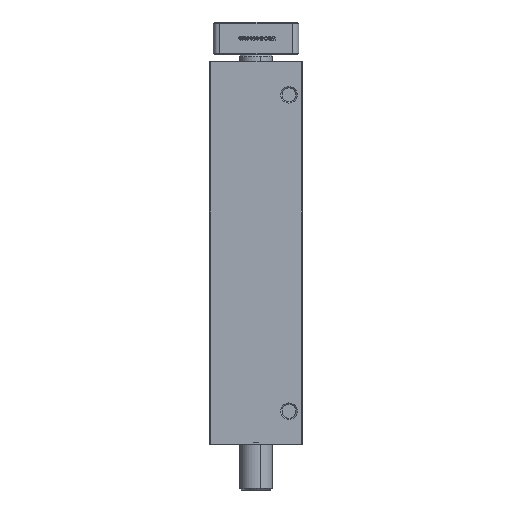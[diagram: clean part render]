
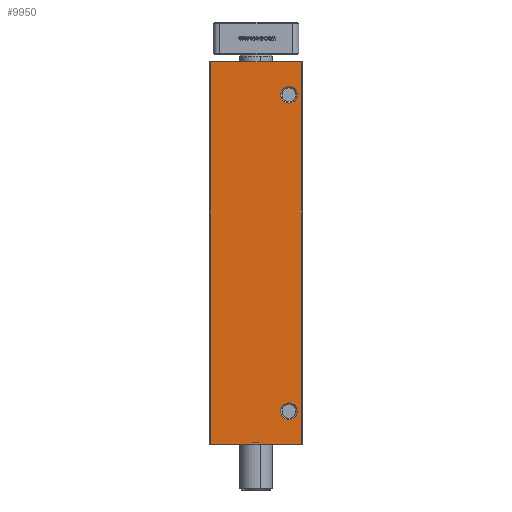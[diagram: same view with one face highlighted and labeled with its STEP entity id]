
A CAD part, left-side view. The second image highlights one B-rep face of the part: STEP entity #9950.
In plain terms, the highlighted planar face has unit normal (-1, 0, 0).
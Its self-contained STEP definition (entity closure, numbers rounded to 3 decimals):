
#170 = LINE ( 'NONE', #2516, #15098 ) ;
#420 = AXIS2_PLACEMENT_3D ( 'NONE', #15072, #23434, #2992 ) ;
#624 = CARTESIAN_POINT ( 'NONE',  ( -30., 0.75, -115.4 ) ) ;
#1021 = DIRECTION ( 'NONE',  ( 0., 0., -1. ) ) ;
#1321 = EDGE_LOOP ( 'NONE', ( #5812, #24893 ) ) ;
#1428 = AXIS2_PLACEMENT_3D ( 'NONE', #6426, #6511, #21087 ) ;
#1881 = AXIS2_PLACEMENT_3D ( 'NONE', #3163, #5134, #1021 ) ;
#2326 = CARTESIAN_POINT ( 'NONE',  ( -30., 0.75, -115.4 ) ) ;
#2516 = CARTESIAN_POINT ( 'NONE',  ( -30., -0.75, -115.4 ) ) ;
#2565 = CARTESIAN_POINT ( 'NONE',  ( -30., -13.7, 0. ) ) ;
#2913 = CIRCLE ( 'NONE', #1428, 2.5 ) ;
#2952 = ORIENTED_EDGE ( 'NONE', *, *, #14971, .F. ) ;
#2992 = DIRECTION ( 'NONE',  ( 0., 0., -1. ) ) ;
#3152 = EDGE_CURVE ( 'NONE', #5461, #4176, #13777, .T. ) ;
#3163 = CARTESIAN_POINT ( 'NONE',  ( -30., -10., -106. ) ) ;
#3412 = VECTOR ( 'NONE', #17081, 1000. ) ;
#3455 = VERTEX_POINT ( 'NONE', #15487 ) ;
#3556 = EDGE_LOOP ( 'NONE', ( #17977, #2952 ) ) ;
#3571 = CARTESIAN_POINT ( 'NONE',  ( -30., 0.75, -116. ) ) ;
#3712 = VERTEX_POINT ( 'NONE', #17662 ) ;
#4153 = DIRECTION ( 'NONE',  ( 0., 1., 0. ) ) ;
#4176 = VERTEX_POINT ( 'NONE', #7006 ) ;
#4365 = EDGE_CURVE ( 'NONE', #25226, #10682, #7880, .T. ) ;
#4544 = FACE_BOUND ( 'NONE', #1321, .T. ) ;
#5134 = DIRECTION ( 'NONE',  ( -1., 0., 0. ) ) ;
#5187 = FACE_BOUND ( 'NONE', #3556, .T. ) ;
#5262 = LINE ( 'NONE', #25084, #13081 ) ;
#5387 = DIRECTION ( 'NONE',  ( 0., -1., 0. ) ) ;
#5461 = VERTEX_POINT ( 'NONE', #12319 ) ;
#5752 = LINE ( 'NONE', #10700, #13872 ) ;
#5812 = ORIENTED_EDGE ( 'NONE', *, *, #16602, .F. ) ;
#6269 = CARTESIAN_POINT ( 'NONE',  ( -30., 13.7, 0. ) ) ;
#6380 = DIRECTION ( 'NONE',  ( 0., 0., 1. ) ) ;
#6426 = CARTESIAN_POINT ( 'NONE',  ( -30., -10., -10. ) ) ;
#6511 = DIRECTION ( 'NONE',  ( -1., 0., 0. ) ) ;
#6545 = AXIS2_PLACEMENT_3D ( 'NONE', #23947, #21970, #9421 ) ;
#6566 = DIRECTION ( 'NONE',  ( 0., -1., 0. ) ) ;
#7006 = CARTESIAN_POINT ( 'NONE',  ( -30., -13.7, -116. ) ) ;
#7289 = PLANE ( 'NONE',  #6545 ) ;
#7880 = LINE ( 'NONE', #11672, #24805 ) ;
#8088 = VERTEX_POINT ( 'NONE', #8519 ) ;
#8519 = CARTESIAN_POINT ( 'NONE',  ( -30., -10., -103.5 ) ) ;
#9102 = DIRECTION ( 'NONE',  ( -1., 0., 0. ) ) ;
#9329 = EDGE_CURVE ( 'NONE', #8088, #3455, #18263, .T. ) ;
#9421 = DIRECTION ( 'NONE',  ( 0., 1., 0. ) ) ;
#9725 = VERTEX_POINT ( 'NONE', #624 ) ;
#9791 = VERTEX_POINT ( 'NONE', #13527 ) ;
#9950 = ADVANCED_FACE ( 'NONE', ( #5187, #4544, #14954 ), #7289, .F. ) ;
#10064 = ORIENTED_EDGE ( 'NONE', *, *, #21221, .T. ) ;
#10682 = VERTEX_POINT ( 'NONE', #3571 ) ;
#10700 = CARTESIAN_POINT ( 'NONE',  ( -30., -14., 0. ) ) ;
#10901 = CARTESIAN_POINT ( 'NONE',  ( -30., 13.7, -116. ) ) ;
#11007 = LINE ( 'NONE', #2326, #16253 ) ;
#11022 = ORIENTED_EDGE ( 'NONE', *, *, #3152, .F. ) ;
#11094 = CARTESIAN_POINT ( 'NONE',  ( -30., -7.225, -116. ) ) ;
#11325 = DIRECTION ( 'NONE',  ( 0., 0., -1. ) ) ;
#11405 = CIRCLE ( 'NONE', #24015, 2.5 ) ;
#11672 = CARTESIAN_POINT ( 'NONE',  ( -30., 7.225, -116. ) ) ;
#11817 = ORIENTED_EDGE ( 'NONE', *, *, #24046, .F. ) ;
#12251 = CARTESIAN_POINT ( 'NONE',  ( -30., -0.75, -116. ) ) ;
#12273 = VECTOR ( 'NONE', #5387, 1000. ) ;
#12319 = CARTESIAN_POINT ( 'NONE',  ( -30., -13.7, 0. ) ) ;
#12733 = VERTEX_POINT ( 'NONE', #14593 ) ;
#13081 = VECTOR ( 'NONE', #4153, 1000. ) ;
#13194 = EDGE_CURVE ( 'NONE', #25226, #12733, #26432, .T. ) ;
#13527 = CARTESIAN_POINT ( 'NONE',  ( -30., -10., -12.5 ) ) ;
#13569 = LINE ( 'NONE', #11094, #12273 ) ;
#13777 = LINE ( 'NONE', #2565, #3412 ) ;
#13872 = VECTOR ( 'NONE', #6566, 1000. ) ;
#14267 = EDGE_CURVE ( 'NONE', #10682, #9725, #11007, .T. ) ;
#14593 = CARTESIAN_POINT ( 'NONE',  ( -30., 13.7, 0. ) ) ;
#14954 = FACE_OUTER_BOUND ( 'NONE', #18716, .T. ) ;
#14971 = EDGE_CURVE ( 'NONE', #19395, #9791, #15285, .T. ) ;
#14989 = DIRECTION ( 'NONE',  ( 0., 0., 1. ) ) ;
#15072 = CARTESIAN_POINT ( 'NONE',  ( -30., -10., -10. ) ) ;
#15098 = VECTOR ( 'NONE', #11325, 1000. ) ;
#15285 = CIRCLE ( 'NONE', #420, 2.5 ) ;
#15487 = CARTESIAN_POINT ( 'NONE',  ( -30., -10., -108.5 ) ) ;
#15882 = CARTESIAN_POINT ( 'NONE',  ( -30., -10., -7.5 ) ) ;
#16253 = VECTOR ( 'NONE', #6380, 1000. ) ;
#16602 = EDGE_CURVE ( 'NONE', #3455, #8088, #11405, .T. ) ;
#16798 = ORIENTED_EDGE ( 'NONE', *, *, #4365, .T. ) ;
#17081 = DIRECTION ( 'NONE',  ( 0., 0., -1. ) ) ;
#17117 = ORIENTED_EDGE ( 'NONE', *, *, #14267, .T. ) ;
#17450 = ORIENTED_EDGE ( 'NONE', *, *, #18885, .T. ) ;
#17620 = VECTOR ( 'NONE', #14989, 1000. ) ;
#17662 = CARTESIAN_POINT ( 'NONE',  ( -30., -0.75, -115.4 ) ) ;
#17977 = ORIENTED_EDGE ( 'NONE', *, *, #18544, .F. ) ;
#18263 = CIRCLE ( 'NONE', #1881, 2.5 ) ;
#18420 = ORIENTED_EDGE ( 'NONE', *, *, #26417, .F. ) ;
#18544 = EDGE_CURVE ( 'NONE', #9791, #19395, #2913, .T. ) ;
#18716 = EDGE_LOOP ( 'NONE', ( #17117, #11817, #10064, #17450, #11022, #18420, #22125, #16798 ) ) ;
#18885 = EDGE_CURVE ( 'NONE', #23451, #4176, #13569, .T. ) ;
#19395 = VERTEX_POINT ( 'NONE', #15882 ) ;
#19524 = CARTESIAN_POINT ( 'NONE',  ( -30., -10., -106. ) ) ;
#19836 = DIRECTION ( 'NONE',  ( 0., -1., 0. ) ) ;
#21087 = DIRECTION ( 'NONE',  ( 0., 0., -1. ) ) ;
#21221 = EDGE_CURVE ( 'NONE', #3712, #23451, #170, .T. ) ;
#21970 = DIRECTION ( 'NONE',  ( 1., 0., 0. ) ) ;
#22125 = ORIENTED_EDGE ( 'NONE', *, *, #13194, .F. ) ;
#23434 = DIRECTION ( 'NONE',  ( -1., 0., 0. ) ) ;
#23451 = VERTEX_POINT ( 'NONE', #12251 ) ;
#23693 = DIRECTION ( 'NONE',  ( 0., 0., -1. ) ) ;
#23947 = CARTESIAN_POINT ( 'NONE',  ( -30., -14., 0. ) ) ;
#24015 = AXIS2_PLACEMENT_3D ( 'NONE', #19524, #9102, #23693 ) ;
#24046 = EDGE_CURVE ( 'NONE', #3712, #9725, #5262, .T. ) ;
#24805 = VECTOR ( 'NONE', #19836, 1000. ) ;
#24893 = ORIENTED_EDGE ( 'NONE', *, *, #9329, .F. ) ;
#25084 = CARTESIAN_POINT ( 'NONE',  ( -30., 0., -115.4 ) ) ;
#25226 = VERTEX_POINT ( 'NONE', #10901 ) ;
#26417 = EDGE_CURVE ( 'NONE', #12733, #5461, #5752, .T. ) ;
#26432 = LINE ( 'NONE', #6269, #17620 ) ;
